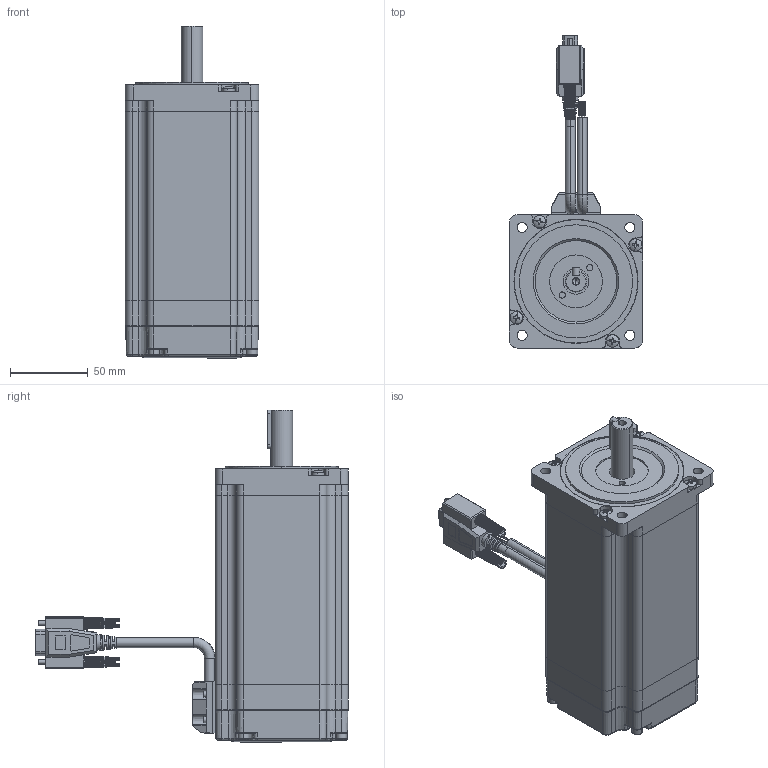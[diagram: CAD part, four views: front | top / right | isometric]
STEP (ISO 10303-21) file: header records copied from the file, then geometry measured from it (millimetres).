
FILE_DESCRIPTION (( 'STEP AP203' ), '1' );
FILE_NAME ('86J18156EC-1000-LS-14.STEP', '2020-04-09T05:55:18', ( 'USER-' ), ( 'MS' ), 'SwSTEP 2.0', 'SolidWorks 2015', '' );
FILE_SCHEMA (( 'CONFIG_CONTROL_DESIGN' ));
Length unit declared in the file: millimetre
Products named in the file (14): 86x17mm（x10）上盖（宽58.2mm）; 压线栓（双线）33.5x32x13; 耳14x45粣瑩羞5x25; 耳6.5L倰4郋盄; 5x25邧埴瑩; 晤鎢んDB9-15俋褲; 86侜督萇儂綴傷裔20.07mm; cross recessed pan head screws gb_GB_CROSS_SCREWS_TYPE1 M4X5-5  H type-N; hexagon socket head cap screws gb_GB_FASTENER_SCREWS_HSHCS M4X6-N; hexagon socket head cap screws gb_GB_FASTENER_SCREWS_HSHCS M2X3-N; 86J18156EC-1000-LS-14; 86x122机身（宽58.2mm）; 86x17下盖（宽58.2mm）; 揤盄蝶菜33.5x32x1.5
Assembly tree (23 placements, depth 2):
  86J18156EC-1000-LS-14
    86x122机身（宽58.2mm）
    86x17下盖（宽58.2mm）
    86x17mm（x10）上盖（宽58.2mm）
    耳14x45粣瑩羞5x25
    5x25邧埴瑩
    86侜督萇儂綴傷裔20.07mm
    揤盄蝶菜33.5x32x1.5
    压线栓（双线）33.5x32x13
    耳6.5L倰4郋盄  x2
    晤鎢んDB9-15俋褲
    cross recessed pan head screws gb_GB_CROSS_SCREWS_TYPE1 M4X5-5  H type-N  x4
    hexagon socket head cap screws gb_GB_FASTENER_SCREWS_HSHCS M4X6-N  x4
    hexagon socket head cap screws gb_GB_FASTENER_SCREWS_HSHCS M2X3-N  x4
Bounding box: 86 x 201.67 x 214.07 mm (x, y, z)
Volume: 1120368.4 mm3; surface area: 142428.5 mm2
Topology: 23 solids, 23 shells, 1365 faces, 3484 edges, 2214 vertices
Faces by surface type: plane 644, cylinder 384, cone 180, bspline 90, torus 40, sphere 27
Entity records: 39578 total; most frequent: CARTESIAN_POINT 11022, ORIENTED_EDGE 5802, DIRECTION 5412, EDGE_CURVE 2901, AXIS2_PLACEMENT_3D 1962, VERTEX_POINT 1860, LINE 1488, VECTOR 1488
